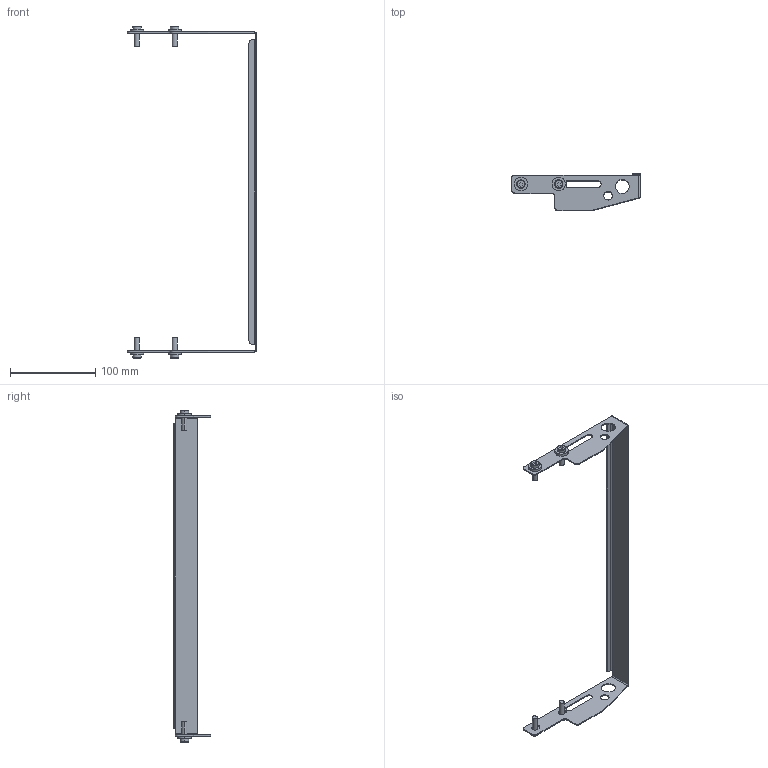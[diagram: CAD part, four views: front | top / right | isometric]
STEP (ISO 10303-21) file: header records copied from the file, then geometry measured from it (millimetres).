
FILE_DESCRIPTION((''),'2;1');
FILE_NAME('207218-16_ASM','2016-12-02T',('jenni.wallner'),(''),'PRO/ENGINEER BY PARAMETRIC TECHNOLOGY CORPORATION, 2012420','PRO/ENGINEER BY PARAMETRIC TECHNOLOGY CORPORATION, 2012420','');
FILE_SCHEMA(('CONFIG_CONTROL_DESIGN'));
Length unit declared in the file: inch
Products named in the file (4): 207125-14; 605279P; 950620M; 207218-16_ASM
Assembly tree (9 placements, depth 2):
  207218-16_ASM
    207125-14
    605279P  x4
    950620M  x4
Bounding box: 151.79 x 43.71 x 390.3 mm (x, y, z)
Volume: 30944.9 mm3; surface area: 49426.2 mm2
Topology: 9 solids, 9 shells, 184 faces, 448 edges, 290 vertices
Faces by surface type: plane 90, cylinder 78, cone 16
Entity records: 3718 total; most frequent: DIRECTION 658, CARTESIAN_POINT 633, ORIENTED_EDGE 596, EDGE_CURVE 298, AXIS2_PLACEMENT_3D 239, VERTEX_POINT 194, VECTOR 180, LINE 180
